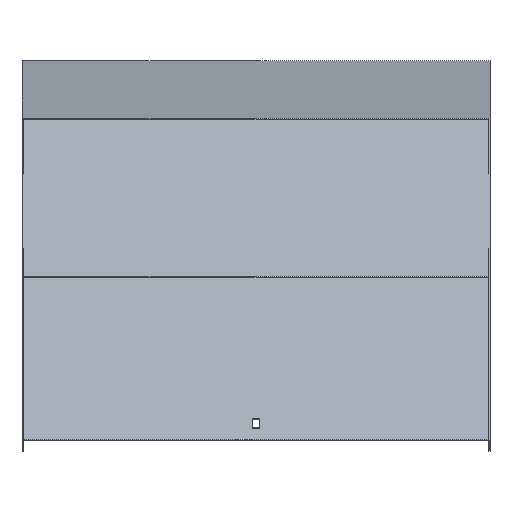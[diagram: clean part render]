
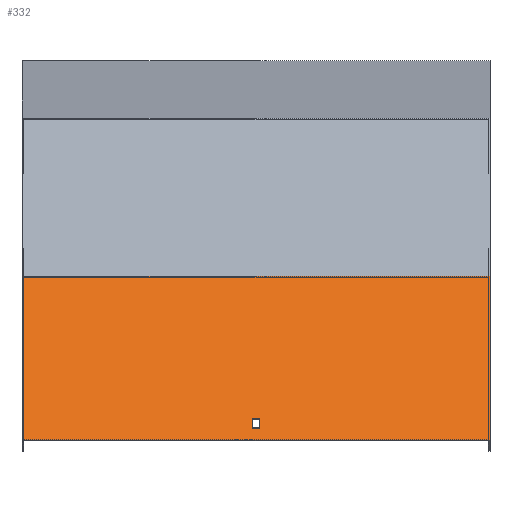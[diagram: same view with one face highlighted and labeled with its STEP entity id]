
A CAD part, top view. The second image highlights one B-rep face of the part: STEP entity #332.
In plain terms, the highlighted planar face has unit normal (0, 0.5, 0.866).
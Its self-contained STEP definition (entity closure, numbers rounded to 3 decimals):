
#7 = VERTEX_POINT ( 'NONE', #755 ) ;
#46 = FACE_OUTER_BOUND ( 'NONE', #965, .T. ) ;
#76 = CARTESIAN_POINT ( 'NONE',  ( -3.25, -296.868, 560.832 ) ) ;
#84 = AXIS2_PLACEMENT_3D ( 'NONE', #403, #698, #503 ) ;
#97 = CARTESIAN_POINT ( 'NONE',  ( 3.25, -296.868, 560.832 ) ) ;
#99 = FACE_BOUND ( 'NONE', #817, .T. ) ;
#117 = DIRECTION ( 'NONE',  ( 0., 0.866, -0.5 ) ) ;
#121 = DIRECTION ( 'NONE',  ( -1., 0., 0. ) ) ;
#147 = VERTEX_POINT ( 'NONE', #97 ) ;
#166 = EDGE_CURVE ( 'NONE', #7, #825, #882, .T. ) ;
#211 = EDGE_CURVE ( 'NONE', #221, #588, #784, .T. ) ;
#221 = VERTEX_POINT ( 'NONE', #76 ) ;
#262 = LINE ( 'NONE', #337, #299 ) ;
#266 = DIRECTION ( 'NONE',  ( 0., -0.866, 0.5 ) ) ;
#274 = PLANE ( 'NONE',  #84 ) ;
#289 = DIRECTION ( 'NONE',  ( 1., 0., 0. ) ) ;
#299 = VECTOR ( 'NONE', #703, 1000. ) ;
#332 = ADVANCED_FACE ( 'NONE', ( #99, #46 ), #274, .F. ) ;
#337 = CARTESIAN_POINT ( 'NONE',  ( 201.5, -296.868, 560.832 ) ) ;
#339 = VECTOR ( 'NONE', #712, 1000. ) ;
#343 = CARTESIAN_POINT ( 'NONE',  ( -201.5, -168.696, 486.832 ) ) ;
#352 = ORIENTED_EDGE ( 'NONE', *, *, #400, .T. ) ;
#356 = CARTESIAN_POINT ( 'NONE',  ( 201.5, -166.416, 485.515 ) ) ;
#400 = EDGE_CURVE ( 'NONE', #588, #547, #877, .T. ) ;
#402 = CARTESIAN_POINT ( 'NONE',  ( 201.5, -307.26, 566.832 ) ) ;
#403 = CARTESIAN_POINT ( 'NONE',  ( 201.5, -168.696, 486.832 ) ) ;
#411 = DIRECTION ( 'NONE',  ( 0., -0.866, 0.5 ) ) ;
#422 = CARTESIAN_POINT ( 'NONE',  ( 3.25, -289.074, 556.332 ) ) ;
#434 = CARTESIAN_POINT ( 'NONE',  ( 201.5, -289.074, 556.332 ) ) ;
#440 = VECTOR ( 'NONE', #121, 1000. ) ;
#472 = CARTESIAN_POINT ( 'NONE',  ( -201.5, -166.416, 485.515 ) ) ;
#481 = EDGE_CURVE ( 'NONE', #825, #987, #690, .T. ) ;
#488 = CARTESIAN_POINT ( 'NONE',  ( 3.25, -168.696, 486.832 ) ) ;
#493 = ORIENTED_EDGE ( 'NONE', *, *, #211, .T. ) ;
#503 = DIRECTION ( 'NONE',  ( 0., 0.866, -0.5 ) ) ;
#547 = VERTEX_POINT ( 'NONE', #422 ) ;
#559 = CARTESIAN_POINT ( 'NONE',  ( 201.5, -307.26, 566.832 ) ) ;
#560 = EDGE_CURVE ( 'NONE', #547, #147, #939, .T. ) ;
#561 = VECTOR ( 'NONE', #289, 1000. ) ;
#569 = LINE ( 'NONE', #343, #903 ) ;
#579 = ORIENTED_EDGE ( 'NONE', *, *, #560, .T. ) ;
#588 = VERTEX_POINT ( 'NONE', #721 ) ;
#602 = ORIENTED_EDGE ( 'NONE', *, *, #868, .T. ) ;
#608 = ORIENTED_EDGE ( 'NONE', *, *, #833, .T. ) ;
#690 = LINE ( 'NONE', #559, #881 ) ;
#698 = DIRECTION ( 'NONE',  ( 0., -0.5, -0.866 ) ) ;
#703 = DIRECTION ( 'NONE',  ( -1., 0., 0. ) ) ;
#706 = CARTESIAN_POINT ( 'NONE',  ( -3.25, -168.696, 486.832 ) ) ;
#712 = DIRECTION ( 'NONE',  ( 0., -0.866, 0.5 ) ) ;
#718 = CARTESIAN_POINT ( 'NONE',  ( 201.5, -168.696, 486.832 ) ) ;
#721 = CARTESIAN_POINT ( 'NONE',  ( -3.25, -289.074, 556.332 ) ) ;
#741 = ORIENTED_EDGE ( 'NONE', *, *, #811, .T. ) ;
#755 = CARTESIAN_POINT ( 'NONE',  ( 201.5, -166.416, 485.515 ) ) ;
#771 = VECTOR ( 'NONE', #266, 1000. ) ;
#778 = VERTEX_POINT ( 'NONE', #472 ) ;
#784 = LINE ( 'NONE', #706, #787 ) ;
#787 = VECTOR ( 'NONE', #117, 1000. ) ;
#797 = CARTESIAN_POINT ( 'NONE',  ( -201.5, -307.26, 566.832 ) ) ;
#801 = LINE ( 'NONE', #356, #440 ) ;
#811 = EDGE_CURVE ( 'NONE', #778, #987, #569, .T. ) ;
#816 = ORIENTED_EDGE ( 'NONE', *, *, #166, .F. ) ;
#817 = EDGE_LOOP ( 'NONE', ( #352, #579, #608, #493 ) ) ;
#825 = VERTEX_POINT ( 'NONE', #402 ) ;
#832 = ORIENTED_EDGE ( 'NONE', *, *, #481, .F. ) ;
#833 = EDGE_CURVE ( 'NONE', #147, #221, #262, .T. ) ;
#854 = DIRECTION ( 'NONE',  ( -1., 0., 0. ) ) ;
#868 = EDGE_CURVE ( 'NONE', #7, #778, #801, .T. ) ;
#877 = LINE ( 'NONE', #434, #561 ) ;
#881 = VECTOR ( 'NONE', #854, 1000. ) ;
#882 = LINE ( 'NONE', #718, #339 ) ;
#903 = VECTOR ( 'NONE', #411, 1000. ) ;
#939 = LINE ( 'NONE', #488, #771 ) ;
#965 = EDGE_LOOP ( 'NONE', ( #741, #832, #816, #602 ) ) ;
#987 = VERTEX_POINT ( 'NONE', #797 ) ;
